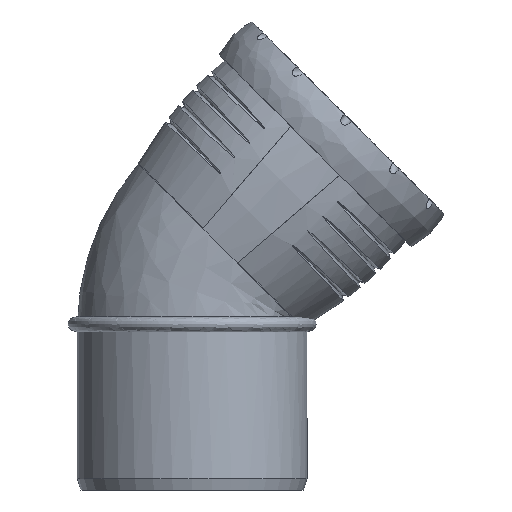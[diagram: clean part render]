
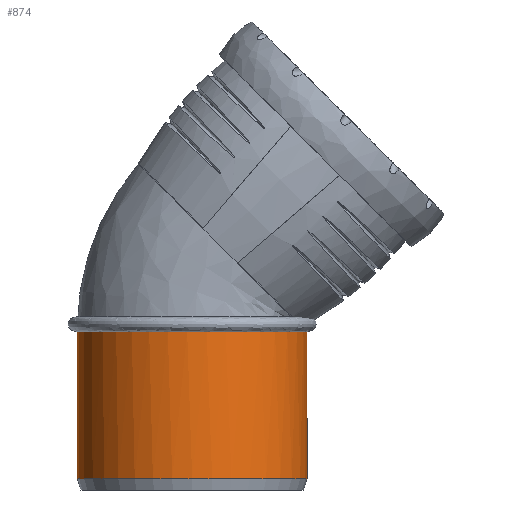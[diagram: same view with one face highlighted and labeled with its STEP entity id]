
A CAD part, front view. The second image highlights one B-rep face of the part: STEP entity #874.
In plain terms, the highlighted cylindrical face has radius 45.1 mm (diameter 90.2 mm), a full revolution.
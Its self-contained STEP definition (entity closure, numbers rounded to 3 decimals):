
#35=FACE_BOUND('',#144,.T.);
#61=CYLINDRICAL_SURFACE('',#939,45.1);
#91=FACE_OUTER_BOUND('',#143,.T.);
#143=EDGE_LOOP('',(#575,#576,#577,#578));
#144=EDGE_LOOP('',(#579));
#226=CIRCLE('',#929,45.1);
#231=CIRCLE('',#940,45.1);
#232=CIRCLE('',#941,45.1);
#233=CIRCLE('',#942,45.1);
#234=CIRCLE('',#943,45.1);
#336=VERTEX_POINT('',#1300);
#343=VERTEX_POINT('',#1381);
#346=VERTEX_POINT('',#1421);
#347=VERTEX_POINT('',#1423);
#348=VERTEX_POINT('',#1426);
#437=EDGE_CURVE('',#336,#343,#226,.T.);
#442=EDGE_CURVE('',#346,#336,#231,.T.);
#443=EDGE_CURVE('',#343,#347,#232,.T.);
#444=EDGE_CURVE('',#347,#346,#233,.T.);
#445=EDGE_CURVE('',#348,#348,#234,.T.);
#575=ORIENTED_EDGE('',*,*,#442,.T.);
#576=ORIENTED_EDGE('',*,*,#437,.T.);
#577=ORIENTED_EDGE('',*,*,#443,.T.);
#578=ORIENTED_EDGE('',*,*,#444,.T.);
#579=ORIENTED_EDGE('',*,*,#445,.F.);
#874=ADVANCED_FACE('',(#91,#35),#61,.T.);
#929=AXIS2_PLACEMENT_3D('',#1408,#1018,#1019);
#939=AXIS2_PLACEMENT_3D('',#1420,#1038,#1039);
#940=AXIS2_PLACEMENT_3D('',#1422,#1040,#1041);
#941=AXIS2_PLACEMENT_3D('',#1424,#1042,#1043);
#942=AXIS2_PLACEMENT_3D('',#1425,#1044,#1045);
#943=AXIS2_PLACEMENT_3D('',#1427,#1046,#1047);
#1018=DIRECTION('center_axis',(0.,0.,-1.));
#1019=DIRECTION('ref_axis',(1.,0.,0.));
#1038=DIRECTION('center_axis',(0.,0.,-1.));
#1039=DIRECTION('ref_axis',(0.,1.,0.));
#1040=DIRECTION('center_axis',(0.,0.,-1.));
#1041=DIRECTION('ref_axis',(1.,0.,0.));
#1042=DIRECTION('center_axis',(0.,0.,-1.));
#1043=DIRECTION('ref_axis',(1.,0.,0.));
#1044=DIRECTION('center_axis',(0.,0.,-1.));
#1045=DIRECTION('ref_axis',(1.,0.,0.));
#1046=DIRECTION('center_axis',(0.,0.,-1.));
#1047=DIRECTION('ref_axis',(1.,0.,0.));
#1300=CARTESIAN_POINT('',(37.305,25.345,62.));
#1381=CARTESIAN_POINT('',(37.305,-25.345,62.));
#1408=CARTESIAN_POINT('Origin',(0.,0.,62.));
#1420=CARTESIAN_POINT('Origin',(0.,0.,33.25));
#1421=CARTESIAN_POINT('',(0.,45.1,62.));
#1422=CARTESIAN_POINT('Origin',(0.,0.,62.));
#1423=CARTESIAN_POINT('',(-45.1,0.,62.));
#1424=CARTESIAN_POINT('Origin',(0.,0.,62.));
#1425=CARTESIAN_POINT('Origin',(0.,0.,62.));
#1426=CARTESIAN_POINT('',(0.,45.1,4.5));
#1427=CARTESIAN_POINT('Origin',(0.,0.,4.5));
